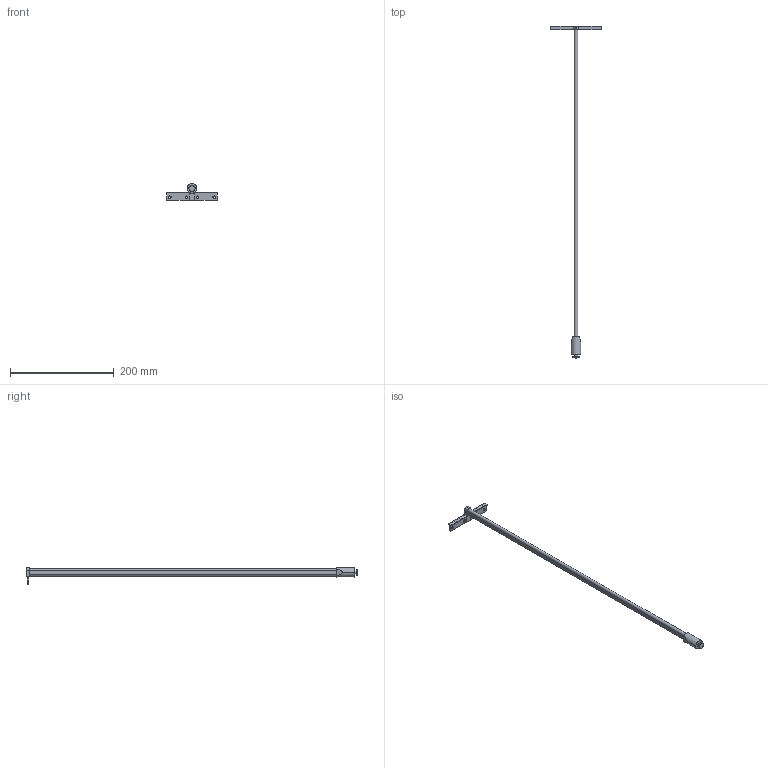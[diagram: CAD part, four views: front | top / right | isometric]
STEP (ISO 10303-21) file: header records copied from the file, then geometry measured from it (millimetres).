
FILE_DESCRIPTION (( 'STEP AP214' ), '1' );
FILE_NAME ('DWD-XP_Reling-Haengeregister_NL650_links.step', '2010-10-06T11:19:44', ( 'grass' ), ( '' ), 'SwSTEP 2.0', 'SolidWorks 2010', '' );
FILE_SCHEMA (( 'AUTOMOTIVE_DESIGN' ));
Length unit declared in the file: millimetre
Products named in the file (1): DWD-XP_Reling-Haengeregister_NL650_links
Bounding box: 97.9 x 640.3 x 32.15 mm (x, y, z)
Volume: 138236.4 mm3; surface area: 56360.3 mm2
Topology: 2 solids, 2 shells, 68 faces, 168 edges, 112 vertices
Faces by surface type: plane 40, cylinder 28
Entity records: 2087 total; most frequent: CARTESIAN_POINT 373, DIRECTION 354, ORIENTED_EDGE 336, EDGE_CURVE 168, AXIS2_PLACEMENT_3D 125, VERTEX_POINT 112, VECTOR 104, LINE 104
